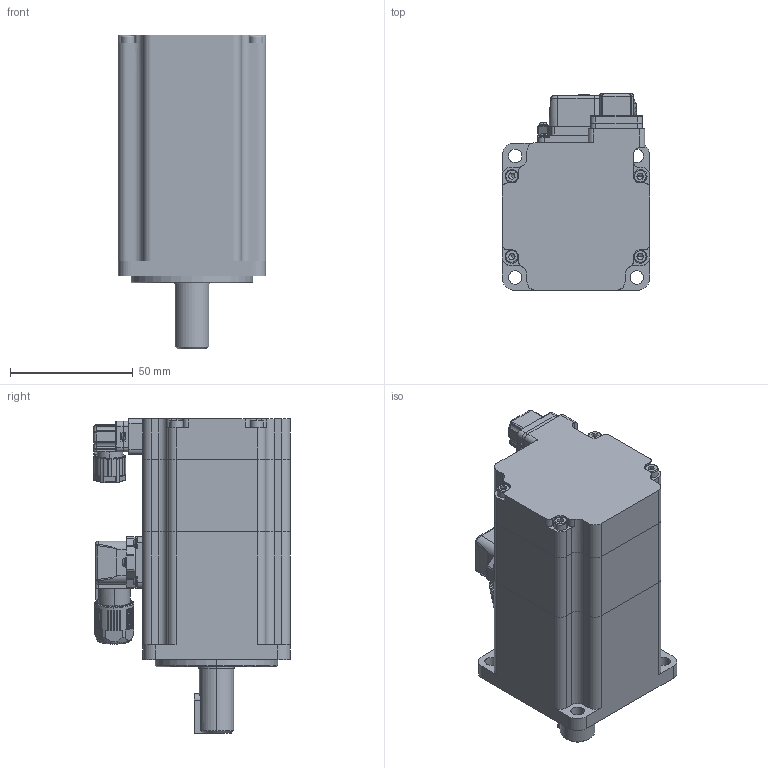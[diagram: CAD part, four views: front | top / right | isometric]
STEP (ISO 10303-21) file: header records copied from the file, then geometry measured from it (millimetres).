
FILE_DESCRIPTION (( 'STEP AP203' ), '1' );
FILE_NAME ('軞蚾.STEP', '2023-11-20T03:30:02', ( 'wuyd' ), ( '' ), 'SwSTEP 2.0', 'SolidWorks 2023', '' );
FILE_SCHEMA (( 'CONFIG_CONTROL_DESIGN' ));
Products named in the file (1): 总装
Bounding box: 60 x 80 x 128 mm (x, y, z)
Surface area: 91462.2 mm2 (no closed solid volume)
Topology: 0 solids, 51 shells, 5147 faces, 13495 edges, 8578 vertices
Faces by surface type: plane 2818, cylinder 1443, bspline 432, cone 222, torus 220, sphere 12
Entity records: 196969 total; most frequent: CARTESIAN_POINT 82005, ORIENTED_EDGE 26828, DIRECTION 19170, EDGE_CURVE 13425, VERTEX_POINT 8578, AXIS2_PLACEMENT_3D 6957, B_SPLINE_CURVE_WITH_KNOTS 5888, EDGE_LOOP 5496
